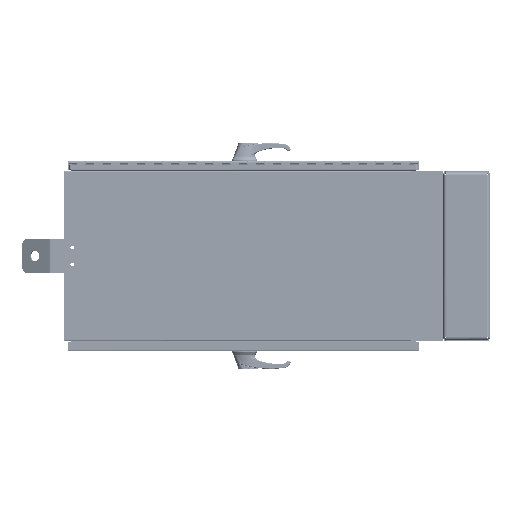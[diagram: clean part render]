
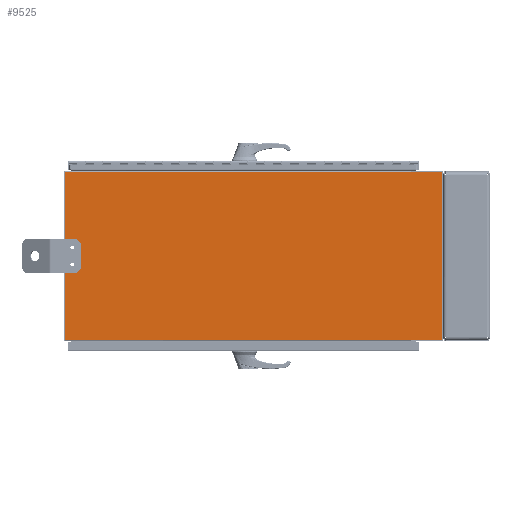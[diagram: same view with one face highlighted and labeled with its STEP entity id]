
A CAD part, left-side view. The second image highlights one B-rep face of the part: STEP entity #9525.
In plain terms, the highlighted planar face has unit normal (-1, 0, 0) as drawn and (0, 0, 1) by its records, which use the part's own axes.
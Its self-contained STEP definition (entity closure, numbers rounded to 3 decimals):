
#9019 = VERTEX_POINT ( 'NONE', #155241 ) ;
#9147 = VERTEX_POINT ( 'NONE', #155313 ) ;
#9225 = EDGE_CURVE ( 'NONE', #9147, #9019, #155275, .T. ) ;
#9525 = ADVANCED_FACE ( 'NONE', ( #155567, #155565, #155564 ), #155562, .T. ) ;
#9586 = EDGE_LOOP ( 'NONE', ( #10639, #10199 ) ) ;
#9802 = VERTEX_POINT ( 'NONE', #155754 ) ;
#9895 = EDGE_CURVE ( 'NONE', #9974, #9147, #155826, .T. ) ;
#9974 = VERTEX_POINT ( 'NONE', #155864 ) ;
#10002 = ORIENTED_EDGE ( 'NONE', *, *, #9225, .T. ) ;
#10051 = ORIENTED_EDGE ( 'NONE', *, *, #9895, .T. ) ;
#10087 = EDGE_CURVE ( 'NONE', #9802, #9974, #155951, .T. ) ;
#10199 = ORIENTED_EDGE ( 'NONE', *, *, #126816, .F. ) ;
#10202 = ORIENTED_EDGE ( 'NONE', *, *, #10087, .T. ) ;
#10235 = EDGE_LOOP ( 'NONE', ( #10262, #10347 ) ) ;
#10262 = ORIENTED_EDGE ( 'NONE', *, *, #10502, .F. ) ;
#10307 = EDGE_LOOP ( 'NONE', ( #10202, #10051, #10002, #11109, #10795, #10754, #10823, #10538 ) ) ;
#10309 = EDGE_CURVE ( 'NONE', #126820, #127312, #155976, .T. ) ;
#10347 = ORIENTED_EDGE ( 'NONE', *, *, #127403, .F. ) ;
#10502 = EDGE_CURVE ( 'NONE', #127405, #127392, #156092, .T. ) ;
#10538 = ORIENTED_EDGE ( 'NONE', *, *, #11458, .T. ) ;
#10549 = VERTEX_POINT ( 'NONE', #156158 ) ;
#10569 = EDGE_CURVE ( 'NONE', #10673, #10549, #156259, .T. ) ;
#10599 = VERTEX_POINT ( 'NONE', #156239 ) ;
#10632 = VERTEX_POINT ( 'NONE', #156231 ) ;
#10637 = EDGE_CURVE ( 'NONE', #10549, #10599, #156227, .T. ) ;
#10639 = ORIENTED_EDGE ( 'NONE', *, *, #10309, .F. ) ;
#10649 = EDGE_CURVE ( 'NONE', #9019, #10673, #156219, .T. ) ;
#10673 = VERTEX_POINT ( 'NONE', #156332 ) ;
#10754 = ORIENTED_EDGE ( 'NONE', *, *, #10637, .T. ) ;
#10795 = ORIENTED_EDGE ( 'NONE', *, *, #10569, .T. ) ;
#10820 = EDGE_CURVE ( 'NONE', #10599, #10632, #156359, .T. ) ;
#10823 = ORIENTED_EDGE ( 'NONE', *, *, #10820, .T. ) ;
#11109 = ORIENTED_EDGE ( 'NONE', *, *, #10649, .T. ) ;
#11458 = EDGE_CURVE ( 'NONE', #10632, #9802, #156675, .T. ) ;
#126816 = EDGE_CURVE ( 'NONE', #127312, #126820, #189093, .T. ) ;
#126820 = VERTEX_POINT ( 'NONE', #189147 ) ;
#127312 = VERTEX_POINT ( 'NONE', #189811 ) ;
#127392 = VERTEX_POINT ( 'NONE', #189881 ) ;
#127403 = EDGE_CURVE ( 'NONE', #127392, #127405, #189864, .T. ) ;
#127405 = VERTEX_POINT ( 'NONE', #189860 ) ;
#155241 = CARTESIAN_POINT ( 'NONE',  ( -9.875, -18.5, 0.125 ) ) ;
#155271 = DIRECTION ( 'NONE',  ( -1., 0., 0. ) ) ;
#155273 = VECTOR ( 'NONE', #155271, 39.37 ) ;
#155274 = CARTESIAN_POINT ( 'NONE',  ( 9.875, -18.5, 0.125 ) ) ;
#155275 = LINE ( 'NONE', #155274, #155273 ) ;
#155313 = CARTESIAN_POINT ( 'NONE',  ( -9.835, -18.5, 0.125 ) ) ;
#155557 = DIRECTION ( 'NONE',  ( 1., 0., 0. ) ) ;
#155558 = DIRECTION ( 'NONE',  ( 0., 0., 1. ) ) ;
#155559 = CARTESIAN_POINT ( 'NONE',  ( 9.875, 22.125, 0.125 ) ) ;
#155561 = AXIS2_PLACEMENT_3D ( 'NONE', #155559, #155558, #155557 ) ;
#155562 = PLANE ( 'NONE',  #155561 ) ;
#155564 = FACE_OUTER_BOUND ( 'NONE', #10307, .T. ) ;
#155565 = FACE_BOUND ( 'NONE', #10235, .T. ) ;
#155567 = FACE_BOUND ( 'NONE', #9586, .T. ) ;
#155754 = CARTESIAN_POINT ( 'NONE',  ( 9.835, 22.125, 0.125 ) ) ;
#155823 = DIRECTION ( 'NONE',  ( 0., -1., 0. ) ) ;
#155824 = VECTOR ( 'NONE', #155823, 39.37 ) ;
#155825 = CARTESIAN_POINT ( 'NONE',  ( -9.835, 22.125, 0.125 ) ) ;
#155826 = LINE ( 'NONE', #155825, #155824 ) ;
#155864 = CARTESIAN_POINT ( 'NONE',  ( -9.835, 22.125, 0.125 ) ) ;
#155946 = DIRECTION ( 'NONE',  ( -1., 0., 0. ) ) ;
#155947 = VECTOR ( 'NONE', #155946, 39.37 ) ;
#155949 = CARTESIAN_POINT ( 'NONE',  ( -9.875, 22.125, 0.125 ) ) ;
#155951 = LINE ( 'NONE', #155949, #155947 ) ;
#155970 = DIRECTION ( 'NONE',  ( 1., 0., 0. ) ) ;
#155971 = DIRECTION ( 'NONE',  ( 0., 0., 1. ) ) ;
#155973 = CARTESIAN_POINT ( 'NONE',  ( 1., 21.25, 0.125 ) ) ;
#155974 = AXIS2_PLACEMENT_3D ( 'NONE', #155973, #155971, #155970 ) ;
#155976 = CIRCLE ( 'NONE', #155974, 0.266 ) ;
#156092 = CIRCLE ( 'NONE', #156207, 0.266 ) ;
#156158 = CARTESIAN_POINT ( 'NONE',  ( 9.875, -22.125, 0.125 ) ) ;
#156200 = DIRECTION ( 'NONE',  ( 1., 0., 0. ) ) ;
#156203 = DIRECTION ( 'NONE',  ( 0., 0., 1. ) ) ;
#156205 = CARTESIAN_POINT ( 'NONE',  ( -1., 21.25, 0.125 ) ) ;
#156207 = AXIS2_PLACEMENT_3D ( 'NONE', #156205, #156203, #156200 ) ;
#156215 = DIRECTION ( 'NONE',  ( 0., -1., 0. ) ) ;
#156217 = VECTOR ( 'NONE', #156215, 39.37 ) ;
#156218 = CARTESIAN_POINT ( 'NONE',  ( -9.875, -22.125, 0.125 ) ) ;
#156219 = LINE ( 'NONE', #156218, #156217 ) ;
#156222 = DIRECTION ( 'NONE',  ( 0., 1., 0. ) ) ;
#156224 = VECTOR ( 'NONE', #156222, 39.37 ) ;
#156226 = CARTESIAN_POINT ( 'NONE',  ( 9.875, -22.125, 0.125 ) ) ;
#156227 = LINE ( 'NONE', #156226, #156224 ) ;
#156231 = CARTESIAN_POINT ( 'NONE',  ( 9.835, -18.5, 0.125 ) ) ;
#156239 = CARTESIAN_POINT ( 'NONE',  ( 9.875, -18.5, 0.125 ) ) ;
#156255 = DIRECTION ( 'NONE',  ( 1., 0., 0. ) ) ;
#156257 = VECTOR ( 'NONE', #156255, 39.37 ) ;
#156258 = CARTESIAN_POINT ( 'NONE',  ( -9.875, -22.125, 0.125 ) ) ;
#156259 = LINE ( 'NONE', #156258, #156257 ) ;
#156332 = CARTESIAN_POINT ( 'NONE',  ( -9.875, -22.125, 0.125 ) ) ;
#156354 = DIRECTION ( 'NONE',  ( -1., 0., 0. ) ) ;
#156357 = VECTOR ( 'NONE', #156354, 39.37 ) ;
#156358 = CARTESIAN_POINT ( 'NONE',  ( 9.875, -18.5, 0.125 ) ) ;
#156359 = LINE ( 'NONE', #156358, #156357 ) ;
#156670 = DIRECTION ( 'NONE',  ( 0., 1., 0. ) ) ;
#156671 = VECTOR ( 'NONE', #156670, 39.37 ) ;
#156672 = CARTESIAN_POINT ( 'NONE',  ( 9.835, -18.5, 0.125 ) ) ;
#156675 = LINE ( 'NONE', #156672, #156671 ) ;
#189092 = AXIS2_PLACEMENT_3D ( 'NONE', #189155, #189154, #189153 ) ;
#189093 = CIRCLE ( 'NONE', #189092, 0.266 ) ;
#189147 = CARTESIAN_POINT ( 'NONE',  ( 1.266, 21.25, 0.125 ) ) ;
#189153 = DIRECTION ( 'NONE',  ( 1., 0., 0. ) ) ;
#189154 = DIRECTION ( 'NONE',  ( 0., 0., 1. ) ) ;
#189155 = CARTESIAN_POINT ( 'NONE',  ( 1., 21.25, 0.125 ) ) ;
#189811 = CARTESIAN_POINT ( 'NONE',  ( 0.734, 21.25, 0.125 ) ) ;
#189860 = CARTESIAN_POINT ( 'NONE',  ( -0.734, 21.25, 0.125 ) ) ;
#189861 = DIRECTION ( 'NONE',  ( 1., 0., 0. ) ) ;
#189862 = DIRECTION ( 'NONE',  ( 0., 0., 1. ) ) ;
#189863 = AXIS2_PLACEMENT_3D ( 'NONE', #189869, #189862, #189861 ) ;
#189864 = CIRCLE ( 'NONE', #189863, 0.266 ) ;
#189869 = CARTESIAN_POINT ( 'NONE',  ( -1., 21.25, 0.125 ) ) ;
#189881 = CARTESIAN_POINT ( 'NONE',  ( -1.266, 21.25, 0.125 ) ) ;
